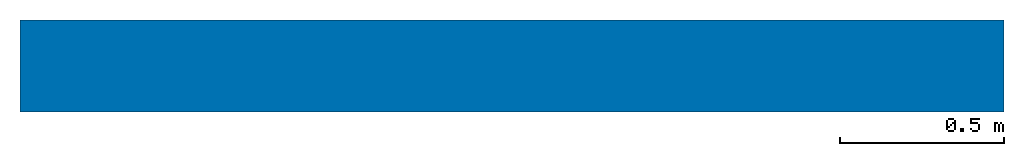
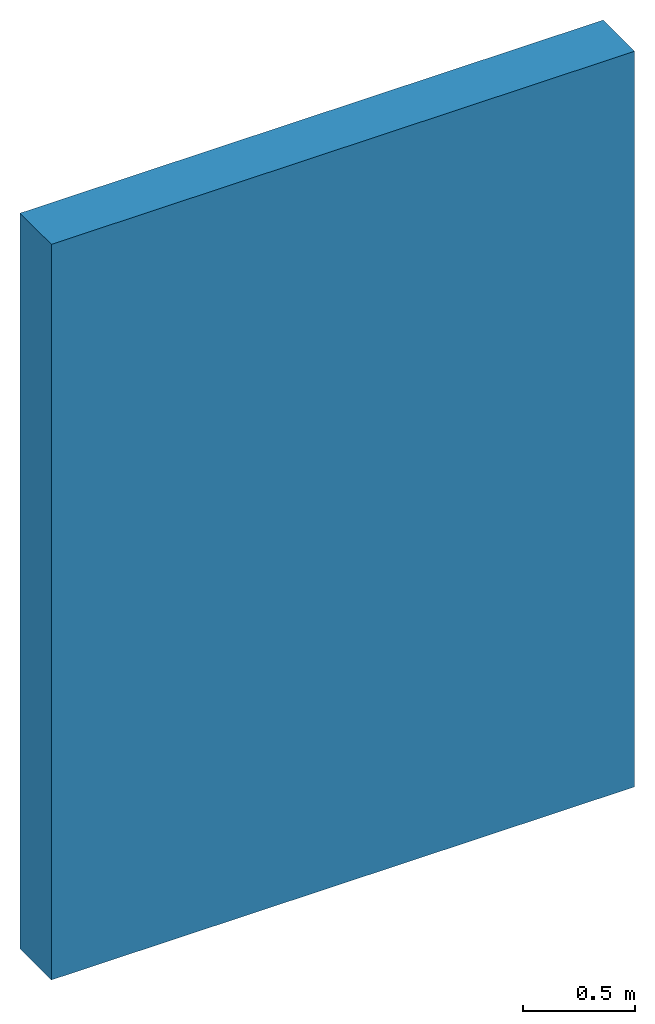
# One storey: 1 wall.
"""IFC2X3 building model written with IfcOpenShell, lengths in millimetres."""

import ifcopenshell
import ifcopenshell.guid

model = None  # the IFC model being written
_history = None  # IfcOwnerHistory: only IFC2X3 demands one
_inside = {}  # id of a spatial element -> (the spatial element, [elements in it])
_under = {}  # id of a project, library or spatial element -> (it, [spatial elements below it])
_declared = {}  # id of a project -> (the project, [libraries it declares])
_typed = {}  # id of a type object -> (the type object, [elements of that type])
_made_of = {}  # id of a material, layer set ... -> (it, [elements and type objects made of it])


def new_model(schema):
    """Start an empty IFC model of exactly this schema.

    Asked for "IFC4X3", IfcOpenShell would pick the latest addendum, in which some entities
    have other attributes; the version numbers below select the first issue.
    IFC2X3 requires an IfcOwnerHistory on every rooted entity: one is made here for all.
    """
    global model, _history
    if schema == "IFC4X3":
        model = ifcopenshell.file(schema_version=(4, 3, 0, 0))
    else:
        model = ifcopenshell.file(schema=schema)
    _inside.clear()
    _under.clear()
    _declared.clear()
    _typed.clear()
    _made_of.clear()
    _history = None
    if model.schema == "IFC2X3":
        org = make("IfcOrganization", Name="unknown")
        user = make(
            "IfcPersonAndOrganization",
            ThePerson=make("IfcPerson", FamilyName="unknown"),
            TheOrganization=org,
        )
        app = make(
            "IfcApplication",
            ApplicationDeveloper=org,
            Version="unknown",
            ApplicationFullName="unknown",
            ApplicationIdentifier="unknown",
        )
        _history = make(
            "IfcOwnerHistory",
            OwningUser=user,
            OwningApplication=app,
            ChangeAction="ADDED",
            CreationDate=0,
        )
    return model


def make(cls, **values):
    """One entity of the class cls with the attributes given. An attribute that is None is left unset."""
    return model.create_entity(
        cls, **{name: value for name, value in values.items() if value is not None}
    )


def entity(cls, *values):
    """Any entity or typed value of the class cls, its attributes in the order of the schema. None: left unset."""
    e = model.create_entity(cls)
    for i, value in enumerate(values):
        if value is not None:
            e[i] = value
    return e


def rooted(cls, **values):
    """An entity with a GlobalId (a new one), such as an element, a storey or a relation."""
    return make(cls, GlobalId=ifcopenshell.guid.new(), OwnerHistory=_history, **values)


def si_unit(unit_type, name, prefix=None):
    """IfcSIUnit, for example si_unit("LENGTHUNIT", "METRE", prefix="MILLI")."""
    return make("IfcSIUnit", UnitType=unit_type, Prefix=prefix, Name=name)


def converted_unit(unit_type, name, factor, base, dimensions=None, offset=None):
    """IfcConversionBasedUnit, such as the inch: factor (a typed value) times the base unit."""
    return make(
        "IfcConversionBasedUnit"
        if offset is None
        else "IfcConversionBasedUnitWithOffset",
        ConversionOffset=offset,
        Dimensions=None
        if dimensions is None
        else entity("IfcDimensionalExponents", *dimensions),
        UnitType=unit_type,
        Name=name,
        ConversionFactor=make(
            "IfcMeasureWithUnit", ValueComponent=factor, UnitComponent=base
        ),
    )


def derived_unit(unit_type, elements):
    """IfcDerivedUnit: a product of units, each with its exponent."""
    return make(
        "IfcDerivedUnit",
        Elements=[
            make("IfcDerivedUnitElement", Unit=unit, Exponent=power)
            for unit, power in elements
        ],
        UnitType=unit_type,
    )


def assignment(units):
    """IfcUnitAssignment: the units of a project."""
    return None if units is None else make("IfcUnitAssignment", Units=units)


def point(xyz):
    """IfcCartesianPoint."""
    return None if xyz is None else make("IfcCartesianPoint", Coordinates=xyz)


def direction(xyz):
    """IfcDirection."""
    return None if xyz is None else make("IfcDirection", DirectionRatios=xyz)


def frame(location, z_axis=None, x_axis=None):
    """IfcAxis2Placement3D, a coordinate frame: its origin and axes. An axis left out is left unset."""
    return make(
        "IfcAxis2Placement3D",
        Location=point(location),
        Axis=direction(z_axis),
        RefDirection=direction(x_axis),
    )


def frame_2d(location, x_axis=None):
    """IfcAxis2Placement2D, a coordinate frame in the plane: its origin and x axis."""
    return make(
        "IfcAxis2Placement2D", Location=point(location), RefDirection=direction(x_axis)
    )


def origin():
    """The frame at (0, 0, 0) with its axes left unset."""
    return frame((0.0, 0.0, 0.0))


def place(relative_to, where):
    """IfcLocalPlacement: puts the frame where relative to a parent placement (None: the world)."""
    return make(
        "IfcLocalPlacement", PlacementRelTo=relative_to, RelativePlacement=where
    )


def context(
    kind, dimensions, precision=None, world=None, true_north=None, identifier=None
):
    """IfcGeometricRepresentationContext, for example the 3D "Model" context."""
    return make(
        "IfcGeometricRepresentationContext",
        ContextIdentifier=identifier,
        ContextType=kind,
        CoordinateSpaceDimension=dimensions,
        Precision=precision,
        WorldCoordinateSystem=world,
        TrueNorth=true_north,
    )


def subcontext(parent, identifier, kind, view, scale=None):
    """IfcGeometricRepresentationSubContext, for example "Body" below "Model"."""
    return make(
        "IfcGeometricRepresentationSubContext",
        ContextIdentifier=identifier,
        ContextType=kind,
        ParentContext=parent,
        TargetScale=scale,
        TargetView=view,
    )


def project(units=None, contexts=None):
    """IfcProject with its units and contexts."""
    return rooted(
        "IfcProject",
        Name="project",
        RepresentationContexts=contexts,
        UnitsInContext=assignment(units),
    )


def spatial(cls, under=None, at=None, **own):
    """A site, building, storey or space (cls), placed at a placement, below another one or the project."""
    s = rooted(cls, ObjectPlacement=at, **own)
    if under is not None:
        _under.setdefault(under.id(), (under, []))[1].append(s)
    return s


def profile(cls, at=None, kind="AREA", **sizes):
    """A parametric profile (cls). Its sizes go by their IFC names, for example OverallWidth=200.0."""
    return make(cls, ProfileType=kind, Position=at, **sizes)


def rectangle(**sizes):
    """IfcRectangleProfileDef."""
    return profile("IfcRectangleProfileDef", **sizes)


def extrude(swept, where, along, depth):
    """IfcExtrudedAreaSolid: the profile swept, set in the frame where, extruded along a direction by depth."""
    return make(
        "IfcExtrudedAreaSolid",
        SweptArea=swept,
        Position=where,
        ExtrudedDirection=direction(along),
        Depth=depth,
    )


def shape(context_of_items, identifier, shape_type, items):
    """IfcShapeRepresentation: the items that make up one representation, for example the "Body"."""
    return make(
        "IfcShapeRepresentation",
        ContextOfItems=context_of_items,
        RepresentationIdentifier=identifier,
        RepresentationType=shape_type,
        Items=items,
    )


def material(Name=None, Category=None):
    """IfcMaterial."""
    return make("IfcMaterial", Name=Name, Category=Category)


def layer(
    of_material, thickness, ventilated=None, Name=None, Category=None, Priority=None
):
    """IfcMaterialLayer: one layer of a wall or slab, of a material (None: an air gap)."""
    return make(
        "IfcMaterialLayer",
        Material=of_material,
        LayerThickness=thickness,
        IsVentilated=ventilated,
        Name=Name,
        Category=Category,
        Priority=Priority,
    )


def layer_set(layers, Name=None):
    """IfcMaterialLayerSet."""
    return make("IfcMaterialLayerSet", MaterialLayers=layers, LayerSetName=Name)


def layer_usage(for_layer_set, set_direction, sense, offset, extent=None):
    """IfcMaterialLayerSetUsage: how a layer set lies in its element."""
    return make(
        "IfcMaterialLayerSetUsage",
        ForLayerSet=for_layer_set,
        LayerSetDirection=set_direction,
        DirectionSense=sense,
        OffsetFromReferenceLine=offset,
        ReferenceExtent=extent,
    )


def made_of(thing, what):
    """Note that an element or type object is made of a material, layer set ...; save() writes the relation."""
    if what is not None:
        _made_of.setdefault(what.id(), (what, []))[1].append(thing)
    return thing


def type_object(cls, material=None, **own):
    """A type object (cls), such as IfcWallType, which elements share."""
    return made_of(rooted(cls, **own), material)


def element(
    cls,
    number,
    at=None,
    inside=None,
    cuts=None,
    type_object=None,
    material=None,
    context=None,
    identifier="Body",
    shape_type=None,
    held_by="IfcProductDefinitionShape",
    body=None,
    shapes=None,
    **own,
):
    """One element of the class cls, such as IfcWall. Its Tag is "e" and its number.

    at: its placement. inside: the storey or other place that contains it. cuts: it is an
    opening in that element (IfcRelVoidsElement). A single representation is given by context,
    identifier, shape_type and body (its items); several are given by shapes. held_by: the class
    of the entity that holds the representations. save() writes the other relations.
    """
    e = rooted(cls, Tag="e%d" % number, ObjectPlacement=at, **own)
    if body is not None:
        shapes = [shape(context, identifier, shape_type, body)]
    if shapes is not None:
        e.Representation = make(held_by, Representations=shapes)
    if inside is not None:
        _inside.setdefault(inside.id(), (inside, []))[1].append(e)
    if cuts is not None:
        rooted(
            "IfcRelVoidsElement", RelatingBuildingElement=cuts, RelatedOpeningElement=e
        )
    if type_object is not None:
        _typed.setdefault(type_object.id(), (type_object, []))[1].append(e)
    return made_of(e, material)


def aggregate(whole, parts):
    """IfcRelAggregates: a whole, such as a stair, and the parts it consists of."""
    return rooted("IfcRelAggregates", RelatingObject=whole, RelatedObjects=parts)


def save(model, path):
    """Write the relations noted so far, then the file.

    IfcRelAggregates (storeys below a building ...), IfcRelContainedInSpatialStructure (elements
    in a storey), IfcRelDefinesByType, IfcRelAssociatesMaterial and IfcRelDeclares: one each for
    every whole, place, type object, material and project.
    """
    for whole, parts in _under.values():
        aggregate(whole, parts)
    for where, things in _inside.values():
        rooted(
            "IfcRelContainedInSpatialStructure",
            RelatedElements=things,
            RelatingStructure=where,
        )
    for kind, things in _typed.values():
        rooted("IfcRelDefinesByType", RelatedObjects=things, RelatingType=kind)
    for what, things in _made_of.values():
        rooted("IfcRelAssociatesMaterial", RelatedObjects=things, RelatingMaterial=what)
    for by, libraries in _declared.values():
        rooted("IfcRelDeclares", RelatingContext=by, RelatedDefinitions=libraries)
    model.write(path)


model = new_model("IFC2X3")

# Units and contexts
model_context = context("Model", 3, precision=0.01, world=origin(), true_north=direction((6.12303176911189e-17, 1.0)))
body_context = subcontext(model_context, "Body", "Model", "MODEL_VIEW")
ifc_project = project(units=[si_unit("LENGTHUNIT", "METRE", prefix="MILLI"), si_unit("AREAUNIT", "SQUARE_METRE"), si_unit("VOLUMEUNIT", "CUBIC_METRE"), converted_unit("PLANEANGLEUNIT", "DEGREE", entity("IfcRatioMeasure", 0.0174532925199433), si_unit("PLANEANGLEUNIT", "RADIAN"), dimensions=[0, 0, 0, 0, 0, 0, 0]), si_unit("MASSUNIT", "GRAM", prefix="KILO"), si_unit("TIMEUNIT", "SECOND"), si_unit("FREQUENCYUNIT", "HERTZ"), si_unit("THERMODYNAMICTEMPERATUREUNIT", "DEGREE_CELSIUS"), derived_unit("THERMALTRANSMITTANCEUNIT", [(si_unit("MASSUNIT", "GRAM", prefix="KILO"), 1), (si_unit("THERMODYNAMICTEMPERATUREUNIT", "KELVIN"), -1), (si_unit("TIMEUNIT", "SECOND"), -3)]), derived_unit("VOLUMETRICFLOWRATEUNIT", [(si_unit("LENGTHUNIT", "METRE"), 3), (si_unit("TIMEUNIT", "SECOND"), -1)]), si_unit("ELECTRICCURRENTUNIT", "AMPERE"), si_unit("ELECTRICVOLTAGEUNIT", "VOLT"), si_unit("POWERUNIT", "WATT"), si_unit("FORCEUNIT", "NEWTON", prefix="KILO"), si_unit("ILLUMINANCEUNIT", "LUX"), si_unit("LUMINOUSFLUXUNIT", "LUMEN"), si_unit("LUMINOUSINTENSITYUNIT", "CANDELA"), derived_unit("USERDEFINED", [(si_unit("MASSUNIT", "GRAM", prefix="KILO"), -1), (si_unit("LENGTHUNIT", "METRE"), -2), (si_unit("TIMEUNIT", "SECOND"), 3), (si_unit("LUMINOUSFLUXUNIT", "LUMEN"), 1)]), derived_unit("LINEARVELOCITYUNIT", [(si_unit("LENGTHUNIT", "METRE"), 1), (si_unit("TIMEUNIT", "SECOND"), -1)]), si_unit("PRESSUREUNIT", "PASCAL"), derived_unit("USERDEFINED", [(si_unit("LENGTHUNIT", "METRE"), -2), (si_unit("MASSUNIT", "GRAM", prefix="KILO"), 1), (si_unit("TIMEUNIT", "SECOND"), -2)])], contexts=[model_context])

# Site, building, storey
site_placement = place(None, origin())
site = spatial("IfcSite", under=ifc_project, at=site_placement, Name="Default", CompositionType="ELEMENT")
building_placement = place(site_placement, origin())
building = spatial("IfcBuilding", under=site, at=building_placement, CompositionType="ELEMENT")
storey_placement = place(building_placement, origin())
storey = spatial("IfcBuildingStorey", under=building, at=storey_placement, Name="Уровень 1", CompositionType="ELEMENT", Elevation=0.0)

# Wall
ifc_material_1 = material(Name="Кнауф-Плита пазогребневая")
ifc_layer_1 = layer(ifc_material_1, 100.0)
ifc_material_2 = material(Name="Luft")
ifc_layer_2 = layer(ifc_material_2, 80.0)
ifc_layer_3 = layer(ifc_material_1, 100.0)
ifc_layer_set = layer_set([ifc_layer_1, ifc_layer_2, ifc_layer_3], Name="Базовая стена:Перегородка КНАУФ ПГП 100 Применение внутри здания Двойная ПлГ 100")
ifc_layer_usage = layer_usage(ifc_layer_set, "AXIS2", "NEGATIVE", 140.0)
wall_type = type_object("IfcWallType", Name="Базовая стена:Перегородка КНАУФ ПГП 100 Применение внутри здания Двойная ПлГ 100", PredefinedType="STANDARD", material=ifc_layer_set)
wall_placement = place(storey_placement, frame((-342.639301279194, 87.7207308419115, 0.0)))
element("IfcWallStandardCase", 1, at=wall_placement, inside=storey, type_object=wall_type, material=ifc_layer_usage, Name="Базовая стена:Перегородка КНАУФ ПГП 100 Применение внутри здания Двойная ПлГ 100", ObjectType="Базовая стена:Перегородка КНАУФ ПГП 100 Применение внутри здания Двойная ПлГ 100", context=body_context, shape_type="SweptSolid", body=[
    extrude(rectangle(XDim=3000.0, YDim=280.0, at=frame_2d((1500.0, 1.4210854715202e-14), x_axis=(-1.0, 0.0))), origin(), (0.0, 0.0, 1.0), 4000.0),
])

save(model, "model.ifc")
